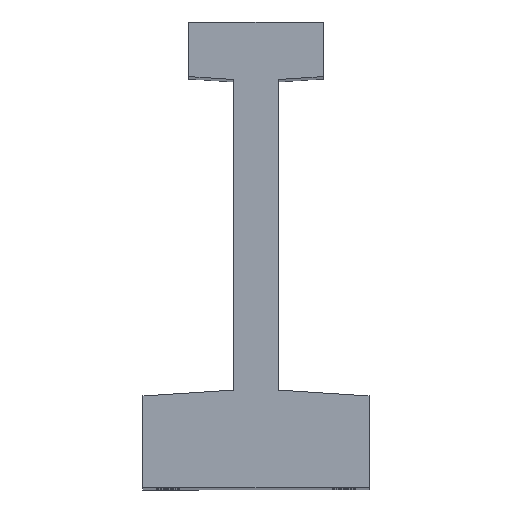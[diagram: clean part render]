
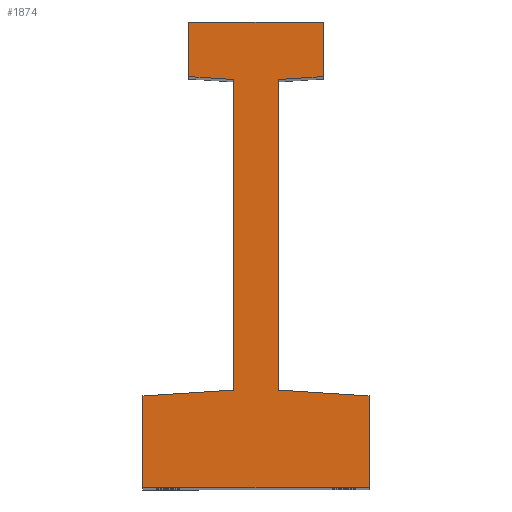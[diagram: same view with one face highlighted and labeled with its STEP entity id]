
A CAD part, top view. The second image highlights one B-rep face of the part: STEP entity #1874.
In plain terms, the highlighted planar face has unit normal (0, 0, 1).
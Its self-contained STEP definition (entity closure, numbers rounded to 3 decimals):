
#66 = VECTOR ( 'NONE', #3072, 1000. ) ;
#182 = DIRECTION ( 'NONE',  ( 0.998, 0.065, 0. ) ) ;
#255 = ORIENTED_EDGE ( 'NONE', *, *, #1468, .T. ) ;
#287 = EDGE_CURVE ( 'NONE', #2132, #783, #1015, .T. ) ;
#289 = LINE ( 'NONE', #1288, #1196 ) ;
#319 = CARTESIAN_POINT ( 'NONE',  ( 11.45, 0., 241. ) ) ;
#356 = DIRECTION ( 'NONE',  ( 0., 1., 0. ) ) ;
#457 = CARTESIAN_POINT ( 'NONE',  ( 3.8, -62.7, 241. ) ) ;
#466 = VECTOR ( 'NONE', #1470, 1000. ) ;
#475 = CARTESIAN_POINT ( 'NONE',  ( 0., 0., 241. ) ) ;
#563 = VECTOR ( 'NONE', #356, 1000. ) ;
#567 = CARTESIAN_POINT ( 'NONE',  ( 3.8, -62.7, 241. ) ) ;
#602 = LINE ( 'NONE', #2729, #1863 ) ;
#605 = CARTESIAN_POINT ( 'NONE',  ( -3.8, -9.795, 241. ) ) ;
#612 = CARTESIAN_POINT ( 'NONE',  ( 19.25, -63.7, 241. ) ) ;
#629 = ORIENTED_EDGE ( 'NONE', *, *, #2240, .T. ) ;
#644 = AXIS2_PLACEMENT_3D ( 'NONE', #475, #1463, #2978 ) ;
#650 = ORIENTED_EDGE ( 'NONE', *, *, #981, .T. ) ;
#657 = EDGE_LOOP ( 'NONE', ( #1723, #811, #1683, #650, #2196, #2299, #1148, #2646, #1192, #629, #255, #2083 ) ) ;
#746 = LINE ( 'NONE', #2983, #2534 ) ;
#756 = LINE ( 'NONE', #567, #66 ) ;
#783 = VERTEX_POINT ( 'NONE', #1853 ) ;
#811 = ORIENTED_EDGE ( 'NONE', *, *, #2625, .T. ) ;
#839 = CARTESIAN_POINT ( 'NONE',  ( -3.8, -62.7, 241. ) ) ;
#844 = CARTESIAN_POINT ( 'NONE',  ( 19.25, -79.3, 241. ) ) ;
#845 = DIRECTION ( 'NONE',  ( -1., 0., 0. ) ) ;
#903 = EDGE_CURVE ( 'NONE', #3039, #2521, #746, .T. ) ;
#981 = EDGE_CURVE ( 'NONE', #783, #3112, #986, .T. ) ;
#986 = LINE ( 'NONE', #2867, #2135 ) ;
#997 = CARTESIAN_POINT ( 'NONE',  ( -3.8, -9.795, 241. ) ) ;
#998 = LINE ( 'NONE', #612, #563 ) ;
#1015 = LINE ( 'NONE', #2621, #1369 ) ;
#1037 = EDGE_CURVE ( 'NONE', #3112, #1923, #2734, .T. ) ;
#1045 = LINE ( 'NONE', #1445, #1520 ) ;
#1125 = VERTEX_POINT ( 'NONE', #1983 ) ;
#1148 = ORIENTED_EDGE ( 'NONE', *, *, #1871, .T. ) ;
#1153 = LINE ( 'NONE', #2988, #3301 ) ;
#1174 = FACE_OUTER_BOUND ( 'NONE', #657, .T. ) ;
#1192 = ORIENTED_EDGE ( 'NONE', *, *, #1795, .T. ) ;
#1196 = VECTOR ( 'NONE', #3074, 1000. ) ;
#1223 = DIRECTION ( 'NONE',  ( 1., 0., 0. ) ) ;
#1249 = CARTESIAN_POINT ( 'NONE',  ( -3.8, -62.7, 241. ) ) ;
#1288 = CARTESIAN_POINT ( 'NONE',  ( 11.45, 0., 241. ) ) ;
#1348 = DIRECTION ( 'NONE',  ( 0., -1., 0. ) ) ;
#1369 = VECTOR ( 'NONE', #845, 1000. ) ;
#1400 = CARTESIAN_POINT ( 'NONE',  ( -11.45, -9.3, 241. ) ) ;
#1432 = EDGE_CURVE ( 'NONE', #1923, #2037, #1697, .T. ) ;
#1445 = CARTESIAN_POINT ( 'NONE',  ( 11.45, -9.3, 241. ) ) ;
#1463 = DIRECTION ( 'NONE',  ( 0., 0., 1. ) ) ;
#1468 = EDGE_CURVE ( 'NONE', #2613, #3039, #756, .T. ) ;
#1470 = DIRECTION ( 'NONE',  ( -0.998, -0.065, 0. ) ) ;
#1520 = VECTOR ( 'NONE', #182, 1000. ) ;
#1573 = DIRECTION ( 'NONE',  ( 0., -1., 0. ) ) ;
#1683 = ORIENTED_EDGE ( 'NONE', *, *, #287, .T. ) ;
#1697 = LINE ( 'NONE', #839, #2187 ) ;
#1710 = CARTESIAN_POINT ( 'NONE',  ( -19.25, -63.7, 241. ) ) ;
#1714 = PLANE ( 'NONE',  #644 ) ;
#1723 = ORIENTED_EDGE ( 'NONE', *, *, #3012, .T. ) ;
#1795 = EDGE_CURVE ( 'NONE', #2038, #2130, #602, .T. ) ;
#1853 = CARTESIAN_POINT ( 'NONE',  ( -11.45, 0., 241. ) ) ;
#1863 = VECTOR ( 'NONE', #1223, 1000. ) ;
#1871 = EDGE_CURVE ( 'NONE', #2037, #3164, #2376, .T. ) ;
#1874 = ADVANCED_FACE ( 'NONE', ( #1174 ), #1714, .T. ) ;
#1923 = VERTEX_POINT ( 'NONE', #997 ) ;
#1983 = CARTESIAN_POINT ( 'NONE',  ( 11.45, -9.3, 241. ) ) ;
#2035 = CARTESIAN_POINT ( 'NONE',  ( 3.8, -9.795, 241. ) ) ;
#2037 = VERTEX_POINT ( 'NONE', #1249 ) ;
#2038 = VERTEX_POINT ( 'NONE', #2312 ) ;
#2083 = ORIENTED_EDGE ( 'NONE', *, *, #903, .T. ) ;
#2125 = DIRECTION ( 'NONE',  ( 0.998, -0.065, 0. ) ) ;
#2130 = VERTEX_POINT ( 'NONE', #844 ) ;
#2132 = VERTEX_POINT ( 'NONE', #319 ) ;
#2135 = VECTOR ( 'NONE', #1348, 1000. ) ;
#2187 = VECTOR ( 'NONE', #1573, 1000. ) ;
#2196 = ORIENTED_EDGE ( 'NONE', *, *, #1037, .T. ) ;
#2240 = EDGE_CURVE ( 'NONE', #2130, #2613, #998, .T. ) ;
#2271 = DIRECTION ( 'NONE',  ( 0., 1., 0. ) ) ;
#2273 = DIRECTION ( 'NONE',  ( 0., -1., 0. ) ) ;
#2299 = ORIENTED_EDGE ( 'NONE', *, *, #1432, .T. ) ;
#2312 = CARTESIAN_POINT ( 'NONE',  ( -19.25, -79.3, 241. ) ) ;
#2376 = LINE ( 'NONE', #3262, #466 ) ;
#2521 = VERTEX_POINT ( 'NONE', #2035 ) ;
#2534 = VECTOR ( 'NONE', #2271, 1000. ) ;
#2579 = CARTESIAN_POINT ( 'NONE',  ( 19.25, -63.7, 241. ) ) ;
#2613 = VERTEX_POINT ( 'NONE', #2579 ) ;
#2621 = CARTESIAN_POINT ( 'NONE',  ( -11.45, 0., 241. ) ) ;
#2625 = EDGE_CURVE ( 'NONE', #1125, #2132, #289, .T. ) ;
#2646 = ORIENTED_EDGE ( 'NONE', *, *, #3254, .T. ) ;
#2729 = CARTESIAN_POINT ( 'NONE',  ( 19.25, -79.3, 241. ) ) ;
#2734 = LINE ( 'NONE', #605, #2939 ) ;
#2867 = CARTESIAN_POINT ( 'NONE',  ( -11.45, -9.3, 241. ) ) ;
#2939 = VECTOR ( 'NONE', #2125, 1000. ) ;
#2978 = DIRECTION ( 'NONE',  ( 1., 0., 0. ) ) ;
#2983 = CARTESIAN_POINT ( 'NONE',  ( 3.8, -9.795, 241. ) ) ;
#2988 = CARTESIAN_POINT ( 'NONE',  ( -19.25, -79.3, 241. ) ) ;
#3012 = EDGE_CURVE ( 'NONE', #2521, #1125, #1045, .T. ) ;
#3039 = VERTEX_POINT ( 'NONE', #457 ) ;
#3072 = DIRECTION ( 'NONE',  ( -0.998, 0.065, 0. ) ) ;
#3074 = DIRECTION ( 'NONE',  ( 0., 1., 0. ) ) ;
#3112 = VERTEX_POINT ( 'NONE', #1400 ) ;
#3164 = VERTEX_POINT ( 'NONE', #1710 ) ;
#3254 = EDGE_CURVE ( 'NONE', #3164, #2038, #1153, .T. ) ;
#3262 = CARTESIAN_POINT ( 'NONE',  ( -19.25, -63.7, 241. ) ) ;
#3301 = VECTOR ( 'NONE', #2273, 1000. ) ;
